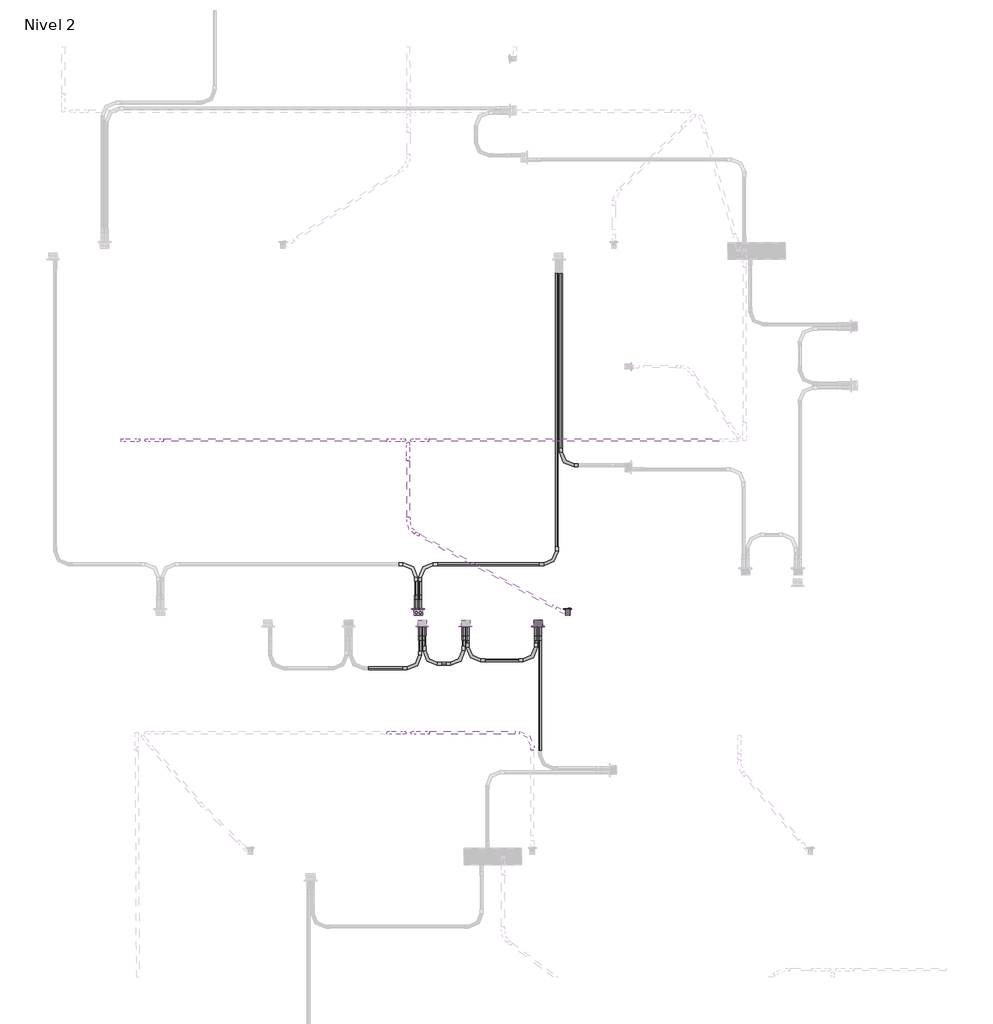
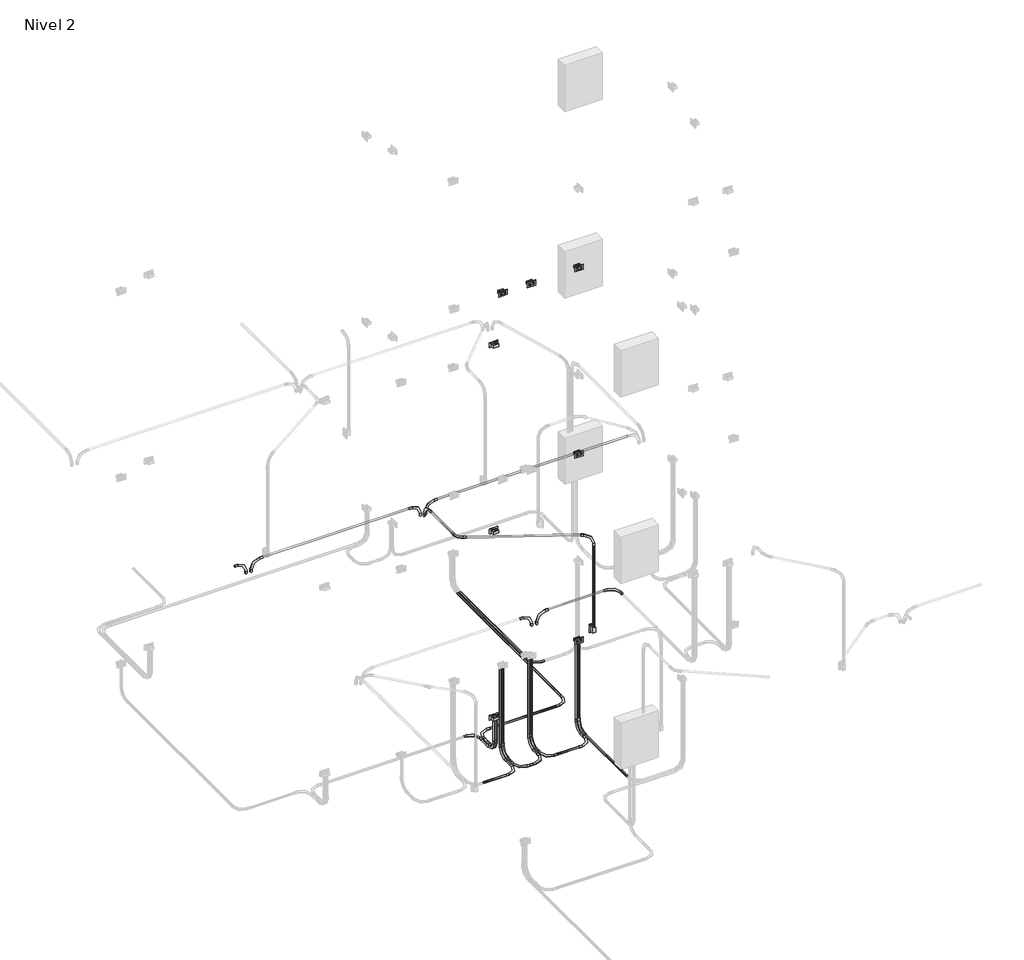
# One storey, part 6 of 10: 28 cable carrier segments, 27 cable carrier fittings, 8 proxies, 1 switching device.
"""IFC4 building model written with IfcOpenShell, lengths in millimetres."""

from ifc_helpers import new_model, si_unit, point, frame, frame_2d, origin, place, context, project, spatial, circle_curve, trimmed, segment, composite_curve, outline, extrude, transform, mapped, element, save
from components import gfci_180f1b41, m_codo_de_tubo_extremo_liso_pvc_9da73e12, m_codo_de_tubo_extremo_liso_pvc_102f0f41, m_codo_de_tubo_extremo_liso_pvc_4da0fa4a, switching_device_22fed34b

model = new_model("IFC4")

# Units and contexts
model_context = context("Model", 3, world=origin())
ifc_project = project(units=[si_unit("LENGTHUNIT", "METRE", prefix="MILLI")], contexts=[model_context])

# Site, building, storey
site = spatial("IfcSite", under=ifc_project)
building = spatial("IfcBuilding", under=site)
storey = spatial("IfcBuildingStorey", under=building, Name="Nivel 2", Elevation=2800.0)

# Proxies
placement = place(None, origin())
gfci_shape = gfci_180f1b41(model_context)
element("IfcBuildingElementProxy", 1, Name="Tomacorriente doble 220V : GFCI", ObjectType="Tomacorriente doble 220V : GFCI", at=placement, inside=storey, context=model_context, shape_type="MappedRepresentation", body=[
    mapped(gfci_shape, transform((2489.9605639, 9125.0, 3200.0), x_axis=(0.0, 0.0, 1.0), y_axis=(1.0, 0.0, 0.0), z_axis=(0.0, 1.0, 0.0))),
])
element("IfcBuildingElementProxy", 2, Name="Tomacorriente doble 220V : GFCI", ObjectType="Tomacorriente doble 220V : GFCI", at=placement, inside=storey, context=model_context, shape_type="MappedRepresentation", body=[
    mapped(gfci_shape, transform((3548.443845, 8975.0, 4000.0), x_axis=(0.0, 0.0, 1.0), y_axis=(-1.0, 0.0, 0.0), z_axis=(0.0, -1.0, 0.0))),
])
element("IfcBuildingElementProxy", 3, Name="Tomacorriente doble 220V : GFCI", ObjectType="Tomacorriente doble 220V : GFCI", at=placement, inside=storey, context=model_context, shape_type="MappedRepresentation", body=[
    mapped(gfci_shape, transform((2489.9605639, 9125.0, 5850.0), x_axis=(0.0, 0.0, 1.0), y_axis=(1.0, 0.0, 0.0), z_axis=(0.0, 1.0, 0.0))),
])
element("IfcBuildingElementProxy", 4, Name="Tomacorriente doble 220V : GFCI", ObjectType="Tomacorriente doble 220V : GFCI", at=placement, inside=storey, context=model_context, shape_type="MappedRepresentation", body=[
    mapped(gfci_shape, transform((3548.443845, 8975.0, 6650.0), x_axis=(0.0, 0.0, 1.0), y_axis=(-1.0, 0.0, 0.0), z_axis=(0.0, -1.0, 0.0))),
])
element("IfcBuildingElementProxy", 5, Name="Tomacorriente doble 220V : GFCI", ObjectType="Tomacorriente doble 220V : GFCI", at=placement, inside=storey, context=model_context, shape_type="MappedRepresentation", body=[
    mapped(gfci_shape, transform((2489.9605639, 9125.0, 8500.0), x_axis=(0.0, 0.0, 1.0), y_axis=(1.0, 0.0, 0.0), z_axis=(0.0, 1.0, 0.0))),
])
element("IfcBuildingElementProxy", 6, Name="Tomacorriente doble 220V : GFCI", ObjectType="Tomacorriente doble 220V : GFCI", at=placement, inside=storey, context=model_context, shape_type="MappedRepresentation", body=[
    mapped(gfci_shape, transform((2525.6966863, 8975.0, 9300.0), x_axis=(0.0, 0.0, 1.0), y_axis=(-1.0, 0.0, 0.0), z_axis=(0.0, -1.0, 0.0))),
])
element("IfcBuildingElementProxy", 7, Name="Tomacorriente doble 220V : GFCI", ObjectType="Tomacorriente doble 220V : GFCI", at=placement, inside=storey, context=model_context, shape_type="MappedRepresentation", body=[
    mapped(gfci_shape, transform((2908.8767356, 8975.0, 9300.0), x_axis=(0.0, 0.0, 1.0), y_axis=(-1.0, 0.0, 0.0), z_axis=(0.0, -1.0, 0.0))),
])
element("IfcBuildingElementProxy", 8, Name="Tomacorriente doble 220V : GFCI", ObjectType="Tomacorriente doble 220V : GFCI", at=placement, inside=storey, context=model_context, shape_type="MappedRepresentation", body=[
    mapped(gfci_shape, transform((3548.443845, 8975.0, 9300.0), x_axis=(0.0, 0.0, 1.0), y_axis=(-1.0, 0.0, 0.0), z_axis=(0.0, -1.0, 0.0))),
])

# Cable carrier fittings
m_codo_de_tubo_extremo_liso_pvc_shape = m_codo_de_tubo_extremo_liso_pvc_9da73e12(model_context)
element("IfcCableCarrierFitting", 9, ObjectType="M_Codo de tubo - Extremo liso - PVC : CODO POTENCIA", at=placement, inside=storey, context=model_context, shape_type="MappedRepresentation", body=[
    mapped(m_codo_de_tubo_extremo_liso_pvc_shape, transform((2471.9287441, 9095.3628882, 2730.0), x_axis=(0.0, 0.0, -1.0), y_axis=(0.0, 1.0, 0.0), z_axis=(1.0, 0.0, 0.0))),
])
element("IfcCableCarrierFitting", 10, ObjectType="M_Codo de tubo - Extremo liso - PVC : CODO POTENCIA", at=placement, inside=storey, context=model_context, shape_type="MappedRepresentation", body=[
    mapped(m_codo_de_tubo_extremo_liso_pvc_shape, transform((3750.0633148, 10396.1945594, 2730.0), x_axis=(0.0, -1.0, 0.0), y_axis=(1.0, 0.0, 0.0), z_axis=(0.0, 0.0, 1.0))),
])
element("IfcCableCarrierFitting", 11, ObjectType="M_Codo de tubo - Extremo liso - PVC : CODO POTENCIA", at=placement, inside=storey, context=model_context, shape_type="MappedRepresentation", body=[
    mapped(m_codo_de_tubo_extremo_liso_pvc_shape, transform((3713.9996751, 9523.463856, 2730.0), x_axis=(1.0, 0.0, 0.0), y_axis=(0.0, 1.0, 0.0), z_axis=(0.0, 0.0, 1.0))),
])
element("IfcCableCarrierFitting", 12, ObjectType="M_Codo de tubo - Extremo liso - PVC : CODO POTENCIA", at=placement, inside=storey, context=model_context, shape_type="MappedRepresentation", body=[
    mapped(m_codo_de_tubo_extremo_liso_pvc_shape, transform((2507.9923837, 9523.463856, 2730.0), x_axis=(-1.0, 0.0, 0.0), y_axis=(0.0, -1.0, 0.0), z_axis=(0.0, 0.0, 1.0))),
])
element("IfcCableCarrierFitting", 13, ObjectType="M_Codo de tubo - Extremo liso - PVC : CODO POTENCIA", at=placement, inside=storey, context=model_context, shape_type="MappedRepresentation", body=[
    mapped(m_codo_de_tubo_extremo_liso_pvc_shape, transform((2507.9923837, 9095.3628882, 2730.0), x_axis=(0.0, 0.0, -1.0), y_axis=(0.0, 1.0, 0.0), z_axis=(1.0, 0.0, 0.0))),
])
element("IfcCableCarrierFitting", 14, ObjectType="M_Codo de tubo - Extremo liso - PVC : CODO POTENCIA", at=placement, inside=storey, context=model_context, shape_type="MappedRepresentation", body=[
    mapped(m_codo_de_tubo_extremo_liso_pvc_shape, transform((2471.9287441, 9523.463856, 2730.0), x_axis=(0.0, 1.0, 0.0), y_axis=(-1.0, 0.0, 0.0), z_axis=(0.0, 0.0, 1.0))),
])
element("IfcCableCarrierFitting", 15, ObjectType="M_Codo de tubo - Extremo liso - PVC : CODO POTENCIA", at=placement, inside=storey, context=model_context, shape_type="MappedRepresentation", body=[
    mapped(m_codo_de_tubo_extremo_liso_pvc_shape, transform((2507.6648665, 9004.6371118, 2730.0), x_axis=(0.0, 0.0, -1.0), y_axis=(0.0, -1.0, 0.0), z_axis=(-1.0, 0.0, 0.0))),
])
element("IfcCableCarrierFitting", 16, ObjectType="M_Codo de tubo - Extremo liso - PVC : CODO POTENCIA", at=placement, inside=storey, context=model_context, shape_type="MappedRepresentation", body=[
    mapped(m_codo_de_tubo_extremo_liso_pvc_shape, transform((2543.7285061, 9004.6371118, 2730.0), x_axis=(0.0, 0.0, -1.0), y_axis=(0.0, -1.0, 0.0), z_axis=(-1.0, 0.0, 0.0))),
])
element("IfcCableCarrierFitting", 17, ObjectType="M_Codo de tubo - Extremo liso - PVC : CODO POTENCIA", at=placement, inside=storey, context=model_context, shape_type="MappedRepresentation", body=[
    mapped(m_codo_de_tubo_extremo_liso_pvc_shape, transform((2890.8449158, 9004.6371118, 2730.0), x_axis=(0.0, 0.0, -1.0), y_axis=(0.0, -1.0, 0.0), z_axis=(-1.0, 0.0, 0.0))),
])
element("IfcCableCarrierFitting", 18, ObjectType="M_Codo de tubo - Extremo liso - PVC : CODO POTENCIA", at=placement, inside=storey, context=model_context, shape_type="MappedRepresentation", body=[
    mapped(m_codo_de_tubo_extremo_liso_pvc_shape, transform((2926.9085554, 9004.6371118, 2730.0), x_axis=(0.0, 0.0, -1.0), y_axis=(0.0, -1.0, 0.0), z_axis=(-1.0, 0.0, 0.0))),
])
element("IfcCableCarrierFitting", 19, ObjectType="M_Codo de tubo - Extremo liso - PVC : CODO POTENCIA", at=placement, inside=storey, context=model_context, shape_type="MappedRepresentation", body=[
    mapped(m_codo_de_tubo_extremo_liso_pvc_shape, transform((3566.4756648, 9004.6371118, 2730.0), x_axis=(0.0, 0.0, -1.0), y_axis=(0.0, -1.0, 0.0), z_axis=(-1.0, 0.0, 0.0))),
])
element("IfcCableCarrierFitting", 20, ObjectType="M_Codo de tubo - Extremo liso - PVC : CODO POTENCIA", at=placement, inside=storey, context=model_context, shape_type="MappedRepresentation", body=[
    mapped(m_codo_de_tubo_extremo_liso_pvc_shape, transform((2890.8449158, 8644.6371118, 2730.0), x_axis=(1.0, 0.0, 0.0), y_axis=(0.0, 1.0, 0.0), z_axis=(0.0, 0.0, 1.0))),
])
element("IfcCableCarrierFitting", 21, ObjectType="M_Codo de tubo - Extremo liso - PVC : CODO POTENCIA", at=placement, inside=storey, context=model_context, shape_type="MappedRepresentation", body=[
    mapped(m_codo_de_tubo_extremo_liso_pvc_shape, transform((2543.7285061, 8644.6371118, 2730.0), x_axis=(0.0, -1.0, 0.0), y_axis=(1.0, 0.0, 0.0), z_axis=(0.0, 0.0, 1.0))),
])
element("IfcCableCarrierFitting", 22, ObjectType="M_Codo de tubo - Extremo liso - PVC : CODO POTENCIA", at=placement, inside=storey, context=model_context, shape_type="MappedRepresentation", body=[
    mapped(m_codo_de_tubo_extremo_liso_pvc_shape, transform((2507.6648665, 8604.6371118, 2730.0), x_axis=(1.0, 0.0, 0.0), y_axis=(0.0, 1.0, 0.0), z_axis=(0.0, 0.0, 1.0))),
])
element("IfcCableCarrierFitting", 23, ObjectType="M_Codo de tubo - Extremo liso - PVC : CODO POTENCIA", at=placement, inside=storey, context=model_context, shape_type="MappedRepresentation", body=[
    mapped(m_codo_de_tubo_extremo_liso_pvc_shape, transform((2926.9085554, 8674.6371118, 2730.0), x_axis=(0.0, -1.0, 0.0), y_axis=(1.0, 0.0, 0.0), z_axis=(0.0, 0.0, 1.0))),
])
element("IfcCableCarrierFitting", 24, ObjectType="M_Codo de tubo - Extremo liso - PVC : CODO POTENCIA", at=placement, inside=storey, context=model_context, shape_type="MappedRepresentation", body=[
    mapped(m_codo_de_tubo_extremo_liso_pvc_shape, transform((3530.4120251, 8674.6371118, 2730.0), x_axis=(1.0, 0.0, 0.0), y_axis=(0.0, 1.0, 0.0), z_axis=(0.0, 0.0, 1.0))),
])
element("IfcCableCarrierFitting", 25, ObjectType="M_Codo de tubo - Extremo liso - PVC : CODO POTENCIA", at=placement, inside=storey, context=model_context, shape_type="MappedRepresentation", body=[
    mapped(m_codo_de_tubo_extremo_liso_pvc_shape, transform((3530.4120251, 9004.6371118, 2730.0), x_axis=(0.0, 0.0, -1.0), y_axis=(0.0, -1.0, 0.0), z_axis=(-1.0, 0.0, 0.0))),
])
element("IfcCableCarrierFitting", 26, ObjectType="M_Codo de tubo - Extremo liso - PVC : CODO ILUMINACION", at=placement, inside=storey, context=model_context, shape_type="MappedRepresentation", body=[
    mapped(m_codo_de_tubo_extremo_liso_pvc_shape, transform((2433.5664838, 10618.2110616, 5350.0), x_axis=(-1.0, 0.0, 0.0), y_axis=(0.0, 0.0, -1.0), z_axis=(0.0, -1.0, 0.0))),
])
element("IfcCableCarrierFitting", 27, ObjectType="M_Codo de tubo - Extremo liso - PVC : CODO ILUMINACION", at=placement, inside=storey, context=model_context, shape_type="MappedRepresentation", body=[
    mapped(m_codo_de_tubo_extremo_liso_pvc_shape, transform((88.3958853, 10618.2110616, 5350.0), x_axis=(-1.0, 0.0, 0.0), y_axis=(0.0, 0.0, -1.0), z_axis=(0.0, -1.0, 0.0))),
])
element("IfcCableCarrierFitting", 28, ObjectType="M_Codo de tubo - Extremo liso - PVC : CODO ILUMINACION", at=placement, inside=storey, context=model_context, shape_type="MappedRepresentation", body=[
    mapped(m_codo_de_tubo_extremo_liso_pvc_shape, transform((2437.1421514, 8034.5901689, 5350.0), x_axis=(-1.0, 0.0, 0.0), y_axis=(0.0, 0.0, -1.0), z_axis=(0.0, -1.0, 0.0))),
])
element("IfcCableCarrierFitting", 29, ObjectType="M_Codo de tubo - Extremo liso - PVC : CODO ILUMINACION", at=placement, inside=storey, context=model_context, shape_type="MappedRepresentation", body=[
    mapped(m_codo_de_tubo_extremo_liso_pvc_shape, transform((2401.0317774, 10589.9698383, 5350.0), x_axis=(-0.003640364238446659, 0.9999933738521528, 0.0), y_axis=(0.0, 0.0, -1.0), z_axis=(-0.9999933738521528, -0.003640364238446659, 0.0))),
])
element("IfcCableCarrierFitting", 30, ObjectType="M_Codo de tubo - Extremo liso - PVC : CODO ILUMINACION", at=placement, inside=storey, context=model_context, shape_type="MappedRepresentation", body=[
    mapped(m_codo_de_tubo_extremo_liso_pvc_shape, transform((3809.679356, 9081.8611243, 5350.0), x_axis=(0.0, 0.0, 1.0), y_axis=(-0.882947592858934, 0.46947156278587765, 0.0), z_axis=(-0.46947156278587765, -0.882947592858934, 0.0))),
])
element("IfcCableCarrierFitting", 31, ObjectType="M_Codo de tubo - Extremo liso - PVC : CODO ILUMINACION", at=placement, inside=storey, context=model_context, shape_type="MappedRepresentation", body=[
    mapped(m_codo_de_tubo_extremo_liso_pvc_shape, transform((3497.5007971, 8034.5901689, 5350.0), x_axis=(0.0, 1.0, 0.0), y_axis=(-1.0, 0.0, 0.0), z_axis=(0.0, 0.0, 1.0))),
])
m_codo_de_tubo_extremo_liso_pvc_2_shape = m_codo_de_tubo_extremo_liso_pvc_102f0f41(model_context)
element("IfcCableCarrierFitting", 32, ObjectType="M_Codo de tubo - Extremo liso - PVC : CODO ILUMINACION", at=placement, inside=storey, context=model_context, shape_type="MappedRepresentation", body=[
    mapped(m_codo_de_tubo_extremo_liso_pvc_2_shape, transform((2365.5362229, 10618.2110616, 5350.0), x_axis=(1.0, 0.0, 0.0), y_axis=(0.0, 0.0, 1.0), z_axis=(0.0, -1.0, 0.0))),
])
element("IfcCableCarrierFitting", 33, ObjectType="M_Codo de tubo - Extremo liso - PVC : CODO ILUMINACION", at=placement, inside=storey, context=model_context, shape_type="MappedRepresentation", body=[
    mapped(m_codo_de_tubo_extremo_liso_pvc_2_shape, transform((20.3656243, 10618.2110616, 5350.0), x_axis=(1.0, 0.0, 0.0), y_axis=(0.0, 0.0, 1.0), z_axis=(0.0, -1.0, 0.0))),
])
element("IfcCableCarrierFitting", 34, ObjectType="M_Codo de tubo - Extremo liso - PVC : CODO ILUMINACION", at=placement, inside=storey, context=model_context, shape_type="MappedRepresentation", body=[
    mapped(m_codo_de_tubo_extremo_liso_pvc_2_shape, transform((2369.1118904, 8034.5901689, 5350.0), x_axis=(1.0, 0.0, 0.0), y_axis=(0.0, 0.0, 1.0), z_axis=(0.0, -1.0, 0.0))),
])
m_codo_de_tubo_extremo_liso_pvc_3_shape = m_codo_de_tubo_extremo_liso_pvc_4da0fa4a(model_context)
element("IfcCableCarrierFitting", 35, ObjectType="M_Codo de tubo - Extremo liso - PVC : CODO ILUMINACION", at=placement, inside=storey, context=model_context, shape_type="MappedRepresentation", body=[
    mapped(m_codo_de_tubo_extremo_liso_pvc_3_shape, transform((2403.8006194, 9829.3801084, 5350.0), x_axis=(0.0036403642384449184, -0.9999933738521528, 0.0), y_axis=(0.9999933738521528, 0.0036403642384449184, 0.0), z_axis=(0.0, 0.0, 1.0))),
])

# Cable carrier segments
element("IfcCableCarrierSegment", 36, ObjectType="PVC-SEL, POTENCIA", at=placement, inside=storey, context=model_context, shape_type="SweptSolid", body=[
    extrude(outline(composite_curve([segment(trimmed(circle_curve(frame_2d((2730.0, 2507.9923837)), 11.71), [point((2730.0, 2496.2823837))], [point((2718.29, 2507.9923837))], False, "CARTESIAN"), True, "CONTINUOUS"), segment(trimmed(circle_curve(frame_2d((2730.0, 2507.9923837)), 11.71), [point((2718.29, 2507.9923837))], [point((2730.0, 2519.7023837))], False, "CARTESIAN"), True, "CONTINUOUS"), segment(trimmed(circle_curve(frame_2d((2730.0, 2507.9923837)), 11.71), [point((2730.0, 2519.7023837))], [point((2741.71, 2507.9923837))], False, "CARTESIAN"), True, "CONTINUOUS"), segment(trimmed(circle_curve(frame_2d((2730.0, 2507.9923837)), 11.71), [point((2741.71, 2507.9923837))], [point((2730.0, 2496.2823837))], False, "CARTESIAN"), True, "CONTINUOUS")], self_intersect=False)), frame((0.0, 9247.7628882, 0.0), z_axis=(0.0, 1.0, 0.0), x_axis=(0.0, 0.0, 1.0)), (0.0, 0.0, 1.0), 123.3009678),
])
element("IfcCableCarrierSegment", 37, ObjectType="PVC-SEL, POTENCIA", at=placement, inside=storey, context=model_context, shape_type="SweptSolid", body=[
    extrude(outline(composite_curve([segment(trimmed(circle_curve(frame_2d((2507.9923837, 9095.3628882)), 11.71), [point((2519.7023837, 9095.3628882))], [point((2507.9923837, 9083.6528882))], False, "CARTESIAN"), True, "CONTINUOUS"), segment(trimmed(circle_curve(frame_2d((2507.9923837, 9095.3628882)), 11.71), [point((2507.9923837, 9083.6528882))], [point((2496.2823837, 9095.3628882))], False, "CARTESIAN"), True, "CONTINUOUS"), segment(trimmed(circle_curve(frame_2d((2507.9923837, 9095.3628882)), 11.71), [point((2496.2823837, 9095.3628882))], [point((2507.9923837, 9107.0728882))], False, "CARTESIAN"), True, "CONTINUOUS"), segment(trimmed(circle_curve(frame_2d((2507.9923837, 9095.3628882)), 11.71), [point((2507.9923837, 9107.0728882))], [point((2519.7023837, 9095.3628882))], False, "CARTESIAN"), True, "CONTINUOUS")], self_intersect=False)), frame((0.0, 0.0, 2882.4), z_axis=(0.0, 0.0, 1.0), x_axis=(1.0, 0.0, 0.0)), (0.0, 0.0, 1.0), 297.3020537),
])
element("IfcCableCarrierSegment", 38, ObjectType="PVC-SEL, POTENCIA", at=placement, inside=storey, context=model_context, shape_type="SweptSolid", body=[
    extrude(outline(composite_curve([segment(trimmed(circle_curve(frame_2d((2730.0, 2471.9287441)), 11.71), [point((2730.0, 2483.6387441))], [point((2741.71, 2471.9287441))], False, "CARTESIAN"), True, "CONTINUOUS"), segment(trimmed(circle_curve(frame_2d((2730.0, 2471.9287441)), 11.71), [point((2741.71, 2471.9287441))], [point((2730.0, 2460.2187441))], False, "CARTESIAN"), True, "CONTINUOUS"), segment(trimmed(circle_curve(frame_2d((2730.0, 2471.9287441)), 11.71), [point((2730.0, 2460.2187441))], [point((2718.29, 2471.9287441))], False, "CARTESIAN"), True, "CONTINUOUS"), segment(trimmed(circle_curve(frame_2d((2730.0, 2471.9287441)), 11.71), [point((2718.29, 2471.9287441))], [point((2730.0, 2483.6387441))], False, "CARTESIAN"), True, "CONTINUOUS")], self_intersect=False)), frame((0.0, 9247.7628882, 0.0), z_axis=(0.0, 1.0, 0.0), x_axis=(0.0, 0.0, 1.0)), (0.0, 0.0, 1.0), 123.3009678),
])
element("IfcCableCarrierSegment", 39, ObjectType="PVC-SEL, POTENCIA", at=placement, inside=storey, context=model_context, shape_type="SweptSolid", body=[
    extrude(outline(composite_curve([segment(trimmed(circle_curve(frame_2d((2471.9287441, 9095.3628882)), 11.71), [point((2483.6387441, 9095.3628882))], [point((2471.9287441, 9083.6528882))], False, "CARTESIAN"), True, "CONTINUOUS"), segment(trimmed(circle_curve(frame_2d((2471.9287441, 9095.3628882)), 11.71), [point((2471.9287441, 9083.6528882))], [point((2460.2187441, 9095.3628882))], False, "CARTESIAN"), True, "CONTINUOUS"), segment(trimmed(circle_curve(frame_2d((2471.9287441, 9095.3628882)), 11.71), [point((2460.2187441, 9095.3628882))], [point((2471.9287441, 9107.0728882))], False, "CARTESIAN"), True, "CONTINUOUS"), segment(trimmed(circle_curve(frame_2d((2471.9287441, 9095.3628882)), 11.71), [point((2471.9287441, 9107.0728882))], [point((2483.6387441, 9095.3628882))], False, "CARTESIAN"), True, "CONTINUOUS")], self_intersect=False)), frame((0.0, 0.0, 2882.4), z_axis=(0.0, 0.0, 1.0), x_axis=(1.0, 0.0, 0.0)), (0.0, 0.0, 1.0), 297.3020537),
])
element("IfcCableCarrierSegment", 40, ObjectType="PVC-SEL, POTENCIA", at=placement, inside=storey, context=model_context, shape_type="SweptSolid", body=[
    extrude(outline(composite_curve([segment(trimmed(circle_curve(frame_2d((2730.0, 3750.0633148)), 11.71), [point((2730.0, 3738.3533148))], [point((2718.29, 3750.0633148))], False, "CARTESIAN"), True, "CONTINUOUS"), segment(trimmed(circle_curve(frame_2d((2730.0, 3750.0633148)), 11.71), [point((2718.29, 3750.0633148))], [point((2730.0, 3761.7733148))], False, "CARTESIAN"), True, "CONTINUOUS"), segment(trimmed(circle_curve(frame_2d((2730.0, 3750.0633148)), 11.71), [point((2730.0, 3761.7733148))], [point((2741.71, 3750.0633148))], False, "CARTESIAN"), True, "CONTINUOUS"), segment(trimmed(circle_curve(frame_2d((2730.0, 3750.0633148)), 11.71), [point((2741.71, 3750.0633148))], [point((2730.0, 3738.3533148))], False, "CARTESIAN"), True, "CONTINUOUS")], self_intersect=False)), frame((0.0, 10548.5945594, 0.0), z_axis=(0.0, 1.0, 0.0), x_axis=(0.0, 0.0, 1.0)), (0.0, 0.0, 1.0), 1543.6425523),
])
element("IfcCableCarrierSegment", 41, ObjectType="PVC-SEL, POTENCIA", at=placement, inside=storey, context=model_context, shape_type="SweptSolid", body=[
    extrude(outline(composite_curve([segment(trimmed(circle_curve(frame_2d((2730.0, 3713.9996751)), 11.71), [point((2730.0, 3702.2896751))], [point((2718.29, 3713.9996751))], False, "CARTESIAN"), True, "CONTINUOUS"), segment(trimmed(circle_curve(frame_2d((2730.0, 3713.9996751)), 11.71), [point((2718.29, 3713.9996751))], [point((2730.0, 3725.7096751))], False, "CARTESIAN"), True, "CONTINUOUS"), segment(trimmed(circle_curve(frame_2d((2730.0, 3713.9996751)), 11.71), [point((2730.0, 3725.7096751))], [point((2741.71, 3713.9996751))], False, "CARTESIAN"), True, "CONTINUOUS"), segment(trimmed(circle_curve(frame_2d((2730.0, 3713.9996751)), 11.71), [point((2741.71, 3713.9996751))], [point((2730.0, 3702.2896751))], False, "CARTESIAN"), True, "CONTINUOUS")], self_intersect=False)), frame((0.0, 9675.863856, 0.0), z_axis=(0.0, 1.0, 0.0), x_axis=(0.0, 0.0, 1.0)), (0.0, 0.0, 1.0), 2416.3732558),
])
element("IfcCableCarrierSegment", 42, ObjectType="PVC-SEL, POTENCIA", at=placement, inside=storey, context=model_context, shape_type="SweptSolid", body=[
    extrude(outline(composite_curve([segment(trimmed(circle_curve(frame_2d((9523.463856, 2730.0)), 11.71), [point((9535.173856, 2730.0))], [point((9523.463856, 2718.29))], False, "CARTESIAN"), True, "CONTINUOUS"), segment(trimmed(circle_curve(frame_2d((9523.463856, 2730.0)), 11.71), [point((9523.463856, 2718.29))], [point((9511.753856, 2730.0))], False, "CARTESIAN"), True, "CONTINUOUS"), segment(trimmed(circle_curve(frame_2d((9523.463856, 2730.0)), 11.71), [point((9511.753856, 2730.0))], [point((9523.463856, 2741.71))], False, "CARTESIAN"), True, "CONTINUOUS"), segment(trimmed(circle_curve(frame_2d((9523.463856, 2730.0)), 11.71), [point((9523.463856, 2741.71))], [point((9535.173856, 2730.0))], False, "CARTESIAN"), True, "CONTINUOUS")], self_intersect=False)), frame((2660.3923837, 0.0, 0.0), z_axis=(1.0, 0.0, 0.0), x_axis=(0.0, 1.0, 0.0)), (0.0, 0.0, 1.0), 901.2072914),
])
element("IfcCableCarrierSegment", 43, ObjectType="PVC-SEL, POTENCIA", at=placement, inside=storey, context=model_context, shape_type="SweptSolid", body=[
    extrude(outline(composite_curve([segment(trimmed(circle_curve(frame_2d((2730.0, 2507.6648665)), 11.71), [point((2730.0, 2495.9548665))], [point((2718.29, 2507.6648665))], False, "CARTESIAN"), True, "CONTINUOUS"), segment(trimmed(circle_curve(frame_2d((2730.0, 2507.6648665)), 11.71), [point((2718.29, 2507.6648665))], [point((2730.0, 2519.3748665))], False, "CARTESIAN"), True, "CONTINUOUS"), segment(trimmed(circle_curve(frame_2d((2730.0, 2507.6648665)), 11.71), [point((2730.0, 2519.3748665))], [point((2741.71, 2507.6648665))], False, "CARTESIAN"), True, "CONTINUOUS"), segment(trimmed(circle_curve(frame_2d((2730.0, 2507.6648665)), 11.71), [point((2741.71, 2507.6648665))], [point((2730.0, 2495.9548665))], False, "CARTESIAN"), True, "CONTINUOUS")], self_intersect=False)), frame((0.0, 8757.0371118, 0.0), z_axis=(0.0, 1.0, 0.0), x_axis=(0.0, 0.0, 1.0)), (0.0, 0.0, 1.0), 95.2),
])
element("IfcCableCarrierSegment", 44, ObjectType="PVC-SEL, POTENCIA", at=placement, inside=storey, context=model_context, shape_type="SweptSolid", body=[
    extrude(outline(composite_curve([segment(trimmed(circle_curve(frame_2d((2507.6648665, 9004.6371118)), 11.71), [point((2519.3748665, 9004.6371118))], [point((2507.6648665, 8992.9271118))], False, "CARTESIAN"), True, "CONTINUOUS"), segment(trimmed(circle_curve(frame_2d((2507.6648665, 9004.6371118)), 11.71), [point((2507.6648665, 8992.9271118))], [point((2495.9548665, 9004.6371118))], False, "CARTESIAN"), True, "CONTINUOUS"), segment(trimmed(circle_curve(frame_2d((2507.6648665, 9004.6371118)), 11.71), [point((2495.9548665, 9004.6371118))], [point((2507.6648665, 9016.3471118))], False, "CARTESIAN"), True, "CONTINUOUS"), segment(trimmed(circle_curve(frame_2d((2507.6648665, 9004.6371118)), 11.71), [point((2507.6648665, 9016.3471118))], [point((2519.3748665, 9004.6371118))], False, "CARTESIAN"), True, "CONTINUOUS")], self_intersect=False)), frame((0.0, 0.0, 2882.4), z_axis=(0.0, 0.0, 1.0), x_axis=(1.0, 0.0, 0.0)), (0.0, 0.0, 1.0), 1097.3020537),
])
element("IfcCableCarrierSegment", 45, ObjectType="PVC-SEL, POTENCIA", at=placement, inside=storey, context=model_context, shape_type="SweptSolid", body=[
    extrude(outline(composite_curve([segment(trimmed(circle_curve(frame_2d((2730.0, 2543.7285061)), 11.71), [point((2730.0, 2532.0185061))], [point((2718.29, 2543.7285061))], False, "CARTESIAN"), True, "CONTINUOUS"), segment(trimmed(circle_curve(frame_2d((2730.0, 2543.7285061)), 11.71), [point((2718.29, 2543.7285061))], [point((2730.0, 2555.4385061))], False, "CARTESIAN"), True, "CONTINUOUS"), segment(trimmed(circle_curve(frame_2d((2730.0, 2543.7285061)), 11.71), [point((2730.0, 2555.4385061))], [point((2741.71, 2543.7285061))], False, "CARTESIAN"), True, "CONTINUOUS"), segment(trimmed(circle_curve(frame_2d((2730.0, 2543.7285061)), 11.71), [point((2741.71, 2543.7285061))], [point((2730.0, 2532.0185061))], False, "CARTESIAN"), True, "CONTINUOUS")], self_intersect=False)), frame((0.0, 8797.0371118, 0.0), z_axis=(0.0, 1.0, 0.0), x_axis=(0.0, 0.0, 1.0)), (0.0, 0.0, 1.0), 55.2),
])
element("IfcCableCarrierSegment", 46, ObjectType="PVC-SEL, POTENCIA", at=placement, inside=storey, context=model_context, shape_type="SweptSolid", body=[
    extrude(outline(composite_curve([segment(trimmed(circle_curve(frame_2d((2543.7285061, 9004.6371118)), 11.71), [point((2555.4385061, 9004.6371118))], [point((2543.7285061, 8992.9271118))], False, "CARTESIAN"), True, "CONTINUOUS"), segment(trimmed(circle_curve(frame_2d((2543.7285061, 9004.6371118)), 11.71), [point((2543.7285061, 8992.9271118))], [point((2532.0185061, 9004.6371118))], False, "CARTESIAN"), True, "CONTINUOUS"), segment(trimmed(circle_curve(frame_2d((2543.7285061, 9004.6371118)), 11.71), [point((2532.0185061, 9004.6371118))], [point((2543.7285061, 9016.3471118))], False, "CARTESIAN"), True, "CONTINUOUS"), segment(trimmed(circle_curve(frame_2d((2543.7285061, 9004.6371118)), 11.71), [point((2543.7285061, 9016.3471118))], [point((2555.4385061, 9004.6371118))], False, "CARTESIAN"), True, "CONTINUOUS")], self_intersect=False)), frame((0.0, 0.0, 2882.4), z_axis=(0.0, 0.0, 1.0), x_axis=(1.0, 0.0, 0.0)), (0.0, 0.0, 1.0), 1097.3020537),
])
element("IfcCableCarrierSegment", 47, ObjectType="PVC-SEL, POTENCIA", at=placement, inside=storey, context=model_context, shape_type="SweptSolid", body=[
    extrude(outline(composite_curve([segment(trimmed(circle_curve(frame_2d((2730.0, 2890.8449158)), 11.71), [point((2730.0, 2879.1349158))], [point((2718.29, 2890.8449158))], False, "CARTESIAN"), True, "CONTINUOUS"), segment(trimmed(circle_curve(frame_2d((2730.0, 2890.8449158)), 11.71), [point((2718.29, 2890.8449158))], [point((2730.0, 2902.5549158))], False, "CARTESIAN"), True, "CONTINUOUS"), segment(trimmed(circle_curve(frame_2d((2730.0, 2890.8449158)), 11.71), [point((2730.0, 2902.5549158))], [point((2741.71, 2890.8449158))], False, "CARTESIAN"), True, "CONTINUOUS"), segment(trimmed(circle_curve(frame_2d((2730.0, 2890.8449158)), 11.71), [point((2741.71, 2890.8449158))], [point((2730.0, 2879.1349158))], False, "CARTESIAN"), True, "CONTINUOUS")], self_intersect=False)), frame((0.0, 8797.0371118, 0.0), z_axis=(0.0, 1.0, 0.0), x_axis=(0.0, 0.0, 1.0)), (0.0, 0.0, 1.0), 55.2),
])
element("IfcCableCarrierSegment", 48, ObjectType="PVC-SEL, POTENCIA", at=placement, inside=storey, context=model_context, shape_type="SweptSolid", body=[
    extrude(outline(composite_curve([segment(trimmed(circle_curve(frame_2d((2890.8449158, 9004.6371118)), 11.71), [point((2902.5549158, 9004.6371118))], [point((2890.8449158, 8992.9271118))], False, "CARTESIAN"), True, "CONTINUOUS"), segment(trimmed(circle_curve(frame_2d((2890.8449158, 9004.6371118)), 11.71), [point((2890.8449158, 8992.9271118))], [point((2879.1349158, 9004.6371118))], False, "CARTESIAN"), True, "CONTINUOUS"), segment(trimmed(circle_curve(frame_2d((2890.8449158, 9004.6371118)), 11.71), [point((2879.1349158, 9004.6371118))], [point((2890.8449158, 9016.3471118))], False, "CARTESIAN"), True, "CONTINUOUS"), segment(trimmed(circle_curve(frame_2d((2890.8449158, 9004.6371118)), 11.71), [point((2890.8449158, 9016.3471118))], [point((2902.5549158, 9004.6371118))], False, "CARTESIAN"), True, "CONTINUOUS")], self_intersect=False)), frame((0.0, 0.0, 2882.4), z_axis=(0.0, 0.0, 1.0), x_axis=(1.0, 0.0, 0.0)), (0.0, 0.0, 1.0), 1097.3020537),
])
element("IfcCableCarrierSegment", 49, ObjectType="PVC-SEL, POTENCIA", at=placement, inside=storey, context=model_context, shape_type="SweptSolid", body=[
    extrude(outline(composite_curve([segment(trimmed(circle_curve(frame_2d((2730.0, 2926.9085554)), 11.71), [point((2730.0, 2915.1985554))], [point((2718.29, 2926.9085554))], False, "CARTESIAN"), True, "CONTINUOUS"), segment(trimmed(circle_curve(frame_2d((2730.0, 2926.9085554)), 11.71), [point((2718.29, 2926.9085554))], [point((2730.0, 2938.6185554))], False, "CARTESIAN"), True, "CONTINUOUS"), segment(trimmed(circle_curve(frame_2d((2730.0, 2926.9085554)), 11.71), [point((2730.0, 2938.6185554))], [point((2741.71, 2926.9085554))], False, "CARTESIAN"), True, "CONTINUOUS"), segment(trimmed(circle_curve(frame_2d((2730.0, 2926.9085554)), 11.71), [point((2741.71, 2926.9085554))], [point((2730.0, 2915.1985554))], False, "CARTESIAN"), True, "CONTINUOUS")], self_intersect=False)), frame((0.0, 8827.0371118, 0.0), z_axis=(0.0, 1.0, 0.0), x_axis=(0.0, 0.0, 1.0)), (0.0, 0.0, 1.0), 25.2),
])
element("IfcCableCarrierSegment", 50, ObjectType="PVC-SEL, POTENCIA", at=placement, inside=storey, context=model_context, shape_type="SweptSolid", body=[
    extrude(outline(composite_curve([segment(trimmed(circle_curve(frame_2d((2926.9085554, 9004.6371118)), 11.71), [point((2938.6185554, 9004.6371118))], [point((2926.9085554, 8992.9271118))], False, "CARTESIAN"), True, "CONTINUOUS"), segment(trimmed(circle_curve(frame_2d((2926.9085554, 9004.6371118)), 11.71), [point((2926.9085554, 8992.9271118))], [point((2915.1985554, 9004.6371118))], False, "CARTESIAN"), True, "CONTINUOUS"), segment(trimmed(circle_curve(frame_2d((2926.9085554, 9004.6371118)), 11.71), [point((2915.1985554, 9004.6371118))], [point((2926.9085554, 9016.3471118))], False, "CARTESIAN"), True, "CONTINUOUS"), segment(trimmed(circle_curve(frame_2d((2926.9085554, 9004.6371118)), 11.71), [point((2926.9085554, 9016.3471118))], [point((2938.6185554, 9004.6371118))], False, "CARTESIAN"), True, "CONTINUOUS")], self_intersect=False)), frame((0.0, 0.0, 2882.4), z_axis=(0.0, 0.0, 1.0), x_axis=(1.0, 0.0, 0.0)), (0.0, 0.0, 1.0), 1097.3020537),
])
element("IfcCableCarrierSegment", 51, ObjectType="PVC-SEL, POTENCIA", at=placement, inside=storey, context=model_context, shape_type="SweptSolid", body=[
    extrude(outline(composite_curve([segment(trimmed(circle_curve(frame_2d((2730.0, 3530.4120251)), 11.71), [point((2730.0, 3542.1220251))], [point((2741.71, 3530.4120251))], False, "CARTESIAN"), True, "CONTINUOUS"), segment(trimmed(circle_curve(frame_2d((2730.0, 3530.4120251)), 11.71), [point((2741.71, 3530.4120251))], [point((2730.0, 3518.7020251))], False, "CARTESIAN"), True, "CONTINUOUS"), segment(trimmed(circle_curve(frame_2d((2730.0, 3530.4120251)), 11.71), [point((2730.0, 3518.7020251))], [point((2718.29, 3530.4120251))], False, "CARTESIAN"), True, "CONTINUOUS"), segment(trimmed(circle_curve(frame_2d((2730.0, 3530.4120251)), 11.71), [point((2718.29, 3530.4120251))], [point((2730.0, 3542.1220251))], False, "CARTESIAN"), True, "CONTINUOUS")], self_intersect=False)), frame((0.0, 8827.0371118, 0.0), z_axis=(0.0, 1.0, 0.0), x_axis=(0.0, 0.0, 1.0)), (0.0, 0.0, 1.0), 25.2),
])
element("IfcCableCarrierSegment", 52, ObjectType="PVC-SEL, POTENCIA", at=placement, inside=storey, context=model_context, shape_type="SweptSolid", body=[
    extrude(outline(composite_curve([segment(trimmed(circle_curve(frame_2d((3530.4120251, 9004.6371118)), 11.71), [point((3542.1220251, 9004.6371118))], [point((3530.4120251, 8992.9271118))], False, "CARTESIAN"), True, "CONTINUOUS"), segment(trimmed(circle_curve(frame_2d((3530.4120251, 9004.6371118)), 11.71), [point((3530.4120251, 8992.9271118))], [point((3518.7020251, 9004.6371118))], False, "CARTESIAN"), True, "CONTINUOUS"), segment(trimmed(circle_curve(frame_2d((3530.4120251, 9004.6371118)), 11.71), [point((3518.7020251, 9004.6371118))], [point((3530.4120251, 9016.3471118))], False, "CARTESIAN"), True, "CONTINUOUS"), segment(trimmed(circle_curve(frame_2d((3530.4120251, 9004.6371118)), 11.71), [point((3530.4120251, 9016.3471118))], [point((3542.1220251, 9004.6371118))], False, "CARTESIAN"), True, "CONTINUOUS")], self_intersect=False)), frame((0.0, 0.0, 2882.4), z_axis=(0.0, 0.0, 1.0), x_axis=(1.0, 0.0, 0.0)), (0.0, 0.0, 1.0), 1097.3020537),
])
element("IfcCableCarrierSegment", 53, ObjectType="PVC-SEL, POTENCIA", at=placement, inside=storey, context=model_context, shape_type="SweptSolid", body=[
    extrude(outline(composite_curve([segment(trimmed(circle_curve(frame_2d((2730.0, 3566.4756648)), 11.71), [point((2730.0, 3554.7656648))], [point((2718.29, 3566.4756648))], False, "CARTESIAN"), True, "CONTINUOUS"), segment(trimmed(circle_curve(frame_2d((2730.0, 3566.4756648)), 11.71), [point((2718.29, 3566.4756648))], [point((2730.0, 3578.1856648))], False, "CARTESIAN"), True, "CONTINUOUS"), segment(trimmed(circle_curve(frame_2d((2730.0, 3566.4756648)), 11.71), [point((2730.0, 3578.1856648))], [point((2741.71, 3566.4756648))], False, "CARTESIAN"), True, "CONTINUOUS"), segment(trimmed(circle_curve(frame_2d((2730.0, 3566.4756648)), 11.71), [point((2741.71, 3566.4756648))], [point((2730.0, 3554.7656648))], False, "CARTESIAN"), True, "CONTINUOUS")], self_intersect=False)), frame((0.0, 7875.5932788, 0.0), z_axis=(0.0, 1.0, 0.0), x_axis=(0.0, 0.0, 1.0)), (0.0, 0.0, 1.0), 976.643833),
])
element("IfcCableCarrierSegment", 54, ObjectType="PVC-SEL, POTENCIA", at=placement, inside=storey, context=model_context, shape_type="SweptSolid", body=[
    extrude(outline(composite_curve([segment(trimmed(circle_curve(frame_2d((3566.4756648, 9004.6371118)), 11.71), [point((3578.1856648, 9004.6371118))], [point((3566.4756648, 8992.9271118))], False, "CARTESIAN"), True, "CONTINUOUS"), segment(trimmed(circle_curve(frame_2d((3566.4756648, 9004.6371118)), 11.71), [point((3566.4756648, 8992.9271118))], [point((3554.7656648, 9004.6371118))], False, "CARTESIAN"), True, "CONTINUOUS"), segment(trimmed(circle_curve(frame_2d((3566.4756648, 9004.6371118)), 11.71), [point((3554.7656648, 9004.6371118))], [point((3566.4756648, 9016.3471118))], False, "CARTESIAN"), True, "CONTINUOUS"), segment(trimmed(circle_curve(frame_2d((3566.4756648, 9004.6371118)), 11.71), [point((3566.4756648, 9016.3471118))], [point((3578.1856648, 9004.6371118))], False, "CARTESIAN"), True, "CONTINUOUS")], self_intersect=False)), frame((0.0, 0.0, 2882.4), z_axis=(0.0, 0.0, 1.0), x_axis=(1.0, 0.0, 0.0)), (0.0, 0.0, 1.0), 1097.3020537),
])
element("IfcCableCarrierSegment", 55, ObjectType="PVC-SEL, POTENCIA", at=placement, inside=storey, context=model_context, shape_type="SweptSolid", body=[
    extrude(outline(composite_curve([segment(trimmed(circle_curve(frame_2d((8604.6371118, 2730.0)), 11.71), [point((8616.3471118, 2730.0))], [point((8604.6371118, 2718.29))], False, "CARTESIAN"), True, "CONTINUOUS"), segment(trimmed(circle_curve(frame_2d((8604.6371118, 2730.0)), 11.71), [point((8604.6371118, 2718.29))], [point((8592.9271118, 2730.0))], False, "CARTESIAN"), True, "CONTINUOUS"), segment(trimmed(circle_curve(frame_2d((8604.6371118, 2730.0)), 11.71), [point((8592.9271118, 2730.0))], [point((8604.6371118, 2741.71))], False, "CARTESIAN"), True, "CONTINUOUS"), segment(trimmed(circle_curve(frame_2d((8604.6371118, 2730.0)), 11.71), [point((8604.6371118, 2741.71))], [point((8616.3471118, 2730.0))], False, "CARTESIAN"), True, "CONTINUOUS")], self_intersect=False)), frame((2045.120414, 0.0, 0.0), z_axis=(1.0, 0.0, 0.0), x_axis=(0.0, 1.0, 0.0)), (0.0, 0.0, 1.0), 310.1444525),
])
element("IfcCableCarrierSegment", 56, ObjectType="PVC-SEL, POTENCIA", at=placement, inside=storey, context=model_context, shape_type="SweptSolid", body=[
    extrude(outline(composite_curve([segment(trimmed(circle_curve(frame_2d((8644.6371118, 2730.0)), 11.71), [point((8656.3471118, 2730.0))], [point((8644.6371118, 2718.29))], False, "CARTESIAN"), True, "CONTINUOUS"), segment(trimmed(circle_curve(frame_2d((8644.6371118, 2730.0)), 11.71), [point((8644.6371118, 2718.29))], [point((8632.9271118, 2730.0))], False, "CARTESIAN"), True, "CONTINUOUS"), segment(trimmed(circle_curve(frame_2d((8644.6371118, 2730.0)), 11.71), [point((8632.9271118, 2730.0))], [point((8644.6371118, 2741.71))], False, "CARTESIAN"), True, "CONTINUOUS"), segment(trimmed(circle_curve(frame_2d((8644.6371118, 2730.0)), 11.71), [point((8644.6371118, 2741.71))], [point((8656.3471118, 2730.0))], False, "CARTESIAN"), True, "CONTINUOUS")], self_intersect=False)), frame((2696.1285061, 0.0, 0.0), z_axis=(1.0, 0.0, 0.0), x_axis=(0.0, 1.0, 0.0)), (0.0, 0.0, 1.0), 42.3164097),
])
element("IfcCableCarrierSegment", 57, ObjectType="PVC-SEL, POTENCIA", at=placement, inside=storey, context=model_context, shape_type="SweptSolid", body=[
    extrude(outline(composite_curve([segment(trimmed(circle_curve(frame_2d((8674.6371118, 2730.0)), 11.71), [point((8662.9271118, 2730.0))], [point((8674.6371118, 2741.71))], False, "CARTESIAN"), True, "CONTINUOUS"), segment(trimmed(circle_curve(frame_2d((8674.6371118, 2730.0)), 11.71), [point((8674.6371118, 2741.71))], [point((8686.3471118, 2730.0))], False, "CARTESIAN"), True, "CONTINUOUS"), segment(trimmed(circle_curve(frame_2d((8674.6371118, 2730.0)), 11.71), [point((8686.3471118, 2730.0))], [point((8674.6371118, 2718.29))], False, "CARTESIAN"), True, "CONTINUOUS"), segment(trimmed(circle_curve(frame_2d((8674.6371118, 2730.0)), 11.71), [point((8674.6371118, 2718.29))], [point((8662.9271118, 2730.0))], False, "CARTESIAN"), True, "CONTINUOUS")], self_intersect=False)), frame((3079.3085554, 0.0, 0.0), z_axis=(1.0, 0.0, 0.0), x_axis=(0.0, 1.0, 0.0)), (0.0, 0.0, 1.0), 298.7034697),
])
element("IfcCableCarrierSegment", 58, ObjectType="PVC-SEL ILUMINACION", at=placement, inside=storey, context=model_context, shape_type="SweptSolid", body=[
    extrude(outline(composite_curve([segment(trimmed(circle_curve(frame_2d((10618.2110616, 5350.0)), 11.71), [point((10629.9210616, 5350.0))], [point((10618.2110616, 5338.29))], False, "CARTESIAN"), True, "CONTINUOUS"), segment(trimmed(circle_curve(frame_2d((10618.2110616, 5350.0)), 11.71), [point((10618.2110616, 5338.29))], [point((10606.5010616, 5350.0))], False, "CARTESIAN"), True, "CONTINUOUS"), segment(trimmed(circle_curve(frame_2d((10618.2110616, 5350.0)), 11.71), [point((10606.5010616, 5350.0))], [point((10618.2110616, 5361.71))], False, "CARTESIAN"), True, "CONTINUOUS"), segment(trimmed(circle_curve(frame_2d((10618.2110616, 5350.0)), 11.71), [point((10618.2110616, 5361.71))], [point((10629.9210616, 5350.0))], False, "CARTESIAN"), True, "CONTINUOUS")], self_intersect=False)), frame((240.7958853, 0.0, 0.0), z_axis=(1.0, 0.0, 0.0), x_axis=(0.0, 1.0, 0.0)), (0.0, 0.0, 1.0), 1972.3403376),
])
element("IfcCableCarrierSegment", 59, ObjectType="PVC-SEL ILUMINACION", at=placement, inside=storey, context=model_context, shape_type="SweptSolid", body=[
    extrude(outline(composite_curve([segment(trimmed(circle_curve(frame_2d((10618.2110616, 5350.0)), 11.71), [point((10629.9210616, 5350.0))], [point((10618.2110616, 5338.29))], False, "CARTESIAN"), True, "CONTINUOUS"), segment(trimmed(circle_curve(frame_2d((10618.2110616, 5350.0)), 11.71), [point((10618.2110616, 5338.29))], [point((10606.5010616, 5350.0))], False, "CARTESIAN"), True, "CONTINUOUS"), segment(trimmed(circle_curve(frame_2d((10618.2110616, 5350.0)), 11.71), [point((10606.5010616, 5350.0))], [point((10618.2110616, 5361.71))], False, "CARTESIAN"), True, "CONTINUOUS"), segment(trimmed(circle_curve(frame_2d((10618.2110616, 5350.0)), 11.71), [point((10618.2110616, 5361.71))], [point((10629.9210616, 5350.0))], False, "CARTESIAN"), True, "CONTINUOUS")], self_intersect=False)), frame((2585.9664838, 0.0, 0.0), z_axis=(1.0, 0.0, 0.0), x_axis=(0.0, 1.0, 0.0)), (0.0, 0.0, 1.0), 2567.169739),
])
element("IfcCableCarrierSegment", 60, ObjectType="PVC-SEL ILUMINACION", at=placement, inside=storey, context=model_context, shape_type="SweptSolid", body=[
    extrude(outline(composite_curve([segment(trimmed(circle_curve(frame_2d((0.0, -11.71)), 11.71), [point((-11.71, -11.71))], [point((0.0, 0.0))], False, "CARTESIAN"), True, "CONTINUOUS"), segment(trimmed(circle_curve(frame_2d((0.0, -11.71)), 11.71), [point((0.0, 0.0))], [point((11.71, -11.71))], False, "CARTESIAN"), True, "CONTINUOUS"), segment(trimmed(circle_curve(frame_2d((0.0, -11.71)), 11.71), [point((11.71, -11.71))], [point((0.0, -23.42))], False, "CARTESIAN"), True, "CONTINUOUS"), segment(trimmed(circle_curve(frame_2d((0.0, -11.71)), 11.71), [point((0.0, -23.42))], [point((-11.71, -11.71))], False, "CARTESIAN"), True, "CONTINUOUS")], self_intersect=False)), frame((3675.1181429, 9153.4085905, 5338.29), z_axis=(-0.8829475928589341, 0.4694715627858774, 0.0), x_axis=(0.4694715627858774, 0.8829475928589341, 0.0)), (0.0, 0.0, 1.0), 1333.3606335),
])
element("IfcCableCarrierSegment", 61, ObjectType="PVC-SEL ILUMINACION", at=placement, inside=storey, context=model_context, shape_type="SweptSolid", body=[
    extrude(outline(composite_curve([segment(trimmed(circle_curve(frame_2d((3809.679356, 9081.8611243)), 11.71), [point((3797.969356, 9081.8611243))], [point((3809.679356, 9093.5711243))], False, "CARTESIAN"), True, "CONTINUOUS"), segment(trimmed(circle_curve(frame_2d((3809.679356, 9081.8611243)), 11.71), [point((3809.679356, 9093.5711243))], [point((3821.389356, 9081.8611243))], False, "CARTESIAN"), True, "CONTINUOUS"), segment(trimmed(circle_curve(frame_2d((3809.679356, 9081.8611243)), 11.71), [point((3821.389356, 9081.8611243))], [point((3809.679356, 9070.1511243))], False, "CARTESIAN"), True, "CONTINUOUS"), segment(trimmed(circle_curve(frame_2d((3809.679356, 9081.8611243)), 11.71), [point((3809.679356, 9070.1511243))], [point((3797.969356, 9081.8611243))], False, "CARTESIAN"), True, "CONTINUOUS")], self_intersect=False)), frame((0.0, 0.0, 4040.2227463), z_axis=(0.0, 0.0, 1.0), x_axis=(1.0, 0.0, 0.0)), (0.0, 0.0, 1.0), 1157.3772537),
])
element("IfcCableCarrierSegment", 62, ObjectType="PVC-SEL ILUMINACION", at=placement, inside=storey, context=model_context, shape_type="SweptSolid", body=[
    extrude(outline(composite_curve([segment(trimmed(circle_curve(frame_2d((0.0, -11.71)), 11.71), [point((-11.71, -11.71))], [point((0.0, 0.0))], False, "CARTESIAN"), True, "CONTINUOUS"), segment(trimmed(circle_curve(frame_2d((0.0, -11.71)), 11.71), [point((0.0, 0.0))], [point((11.71, -11.71))], False, "CARTESIAN"), True, "CONTINUOUS"), segment(trimmed(circle_curve(frame_2d((0.0, -11.71)), 11.71), [point((11.71, -11.71))], [point((0.0, -23.42))], False, "CARTESIAN"), True, "CONTINUOUS"), segment(trimmed(circle_curve(frame_2d((0.0, -11.71)), 11.71), [point((0.0, -23.42))], [point((-11.71, -11.71))], False, "CARTESIAN"), True, "CONTINUOUS")], self_intersect=False)), frame((2403.4129369, 9935.8749212, 5338.29), z_axis=(-0.00364036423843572, 0.9999933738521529, 0.0), x_axis=(0.9999933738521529, 0.00364036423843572, 0.0)), (0.0, 0.0, 1.0), 501.6992512),
])
element("IfcCableCarrierSegment", 63, ObjectType="PVC-SEL ILUMINACION", at=placement, inside=storey, context=model_context, shape_type="SweptSolid", body=[
    extrude(outline(composite_curve([segment(trimmed(circle_curve(frame_2d((8034.5901689, 5350.0)), 11.71), [point((8022.8801689, 5350.0))], [point((8034.5901689, 5361.71))], False, "CARTESIAN"), True, "CONTINUOUS"), segment(trimmed(circle_curve(frame_2d((8034.5901689, 5350.0)), 11.71), [point((8034.5901689, 5361.71))], [point((8046.3001689, 5350.0))], False, "CARTESIAN"), True, "CONTINUOUS"), segment(trimmed(circle_curve(frame_2d((8034.5901689, 5350.0)), 11.71), [point((8046.3001689, 5350.0))], [point((8034.5901689, 5338.29))], False, "CARTESIAN"), True, "CONTINUOUS"), segment(trimmed(circle_curve(frame_2d((8034.5901689, 5350.0)), 11.71), [point((8034.5901689, 5338.29))], [point((8022.8801689, 5350.0))], False, "CARTESIAN"), True, "CONTINUOUS")], self_intersect=False)), frame((2589.5421514, 0.0, 0.0), z_axis=(1.0, 0.0, 0.0), x_axis=(0.0, 1.0, 0.0)), (0.0, 0.0, 1.0), 755.5586457),
])

# Switching device
switching_device_shape = switching_device_22fed34b(model_context)
element("IfcSwitchingDevice", 64, ObjectType="Interruptor : Tridireccional", at=placement, inside=storey, context=model_context, shape_type="MappedRepresentation", body=[
    mapped(switching_device_shape, transform((3809.6295104, 9125.0, 4000.0), x_axis=(-1.0, 0.0, 0.0), y_axis=(0.0, 0.0, 1.0), z_axis=(0.0, 1.0, 0.0))),
])

save(model, "model.ifc")
